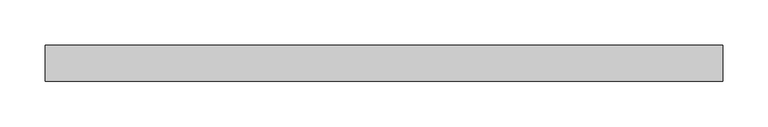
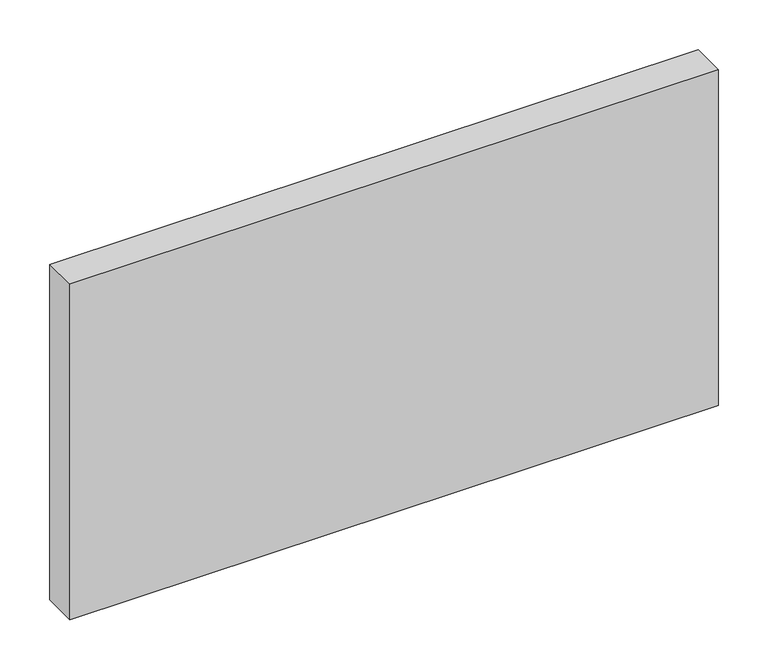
"""IFC4 building model written with IfcOpenShell, lengths in millimetres: plate geometry, Panneau système : Vitre 4cm."""

from ifc_helpers import new_model, si_unit, origin, origin_with_axes, place, context, project, spatial, polyline, outline, extrude, source, transform, mapped, element, save


def plate_9131c234(model_context):
    return source(origin(), model_context, "Body", "SweptSolid", [
        extrude(outline(polyline([(374.1244143, -20.0), (-374.1244143, -20.0), (-374.1244143, 20.0), (374.1244143, 20.0), (374.1244143, -20.0)])), origin_with_axes(), (0.0, 0.0, 1.0), 410.0),
    ])


if __name__ == "__main__":
    model = new_model("IFC4")
    model_context = context("Model", 3, world=origin())
    ifc_project = project(units=[si_unit("LENGTHUNIT", "METRE", prefix="MILLI")], contexts=[model_context])
    site = spatial("IfcSite", under=ifc_project)
    building = spatial("IfcBuilding", under=site)
    placement = place(None, origin())
    plate_shape = plate_9131c234(model_context)
    element("IfcPlate", 1, ObjectType="Panneau système : Vitre 4cm", at=placement, inside=building, context=model_context, shape_type="MappedRepresentation", body=[
        mapped(plate_shape, transform((0.0, 0.0, 0.0), x_axis=(1.0, 0.0, 0.0), y_axis=(0.0, 1.0, 0.0), z_axis=(0.0, 0.0, 1.0))),
    ])
    save(model, "model.ifc")
